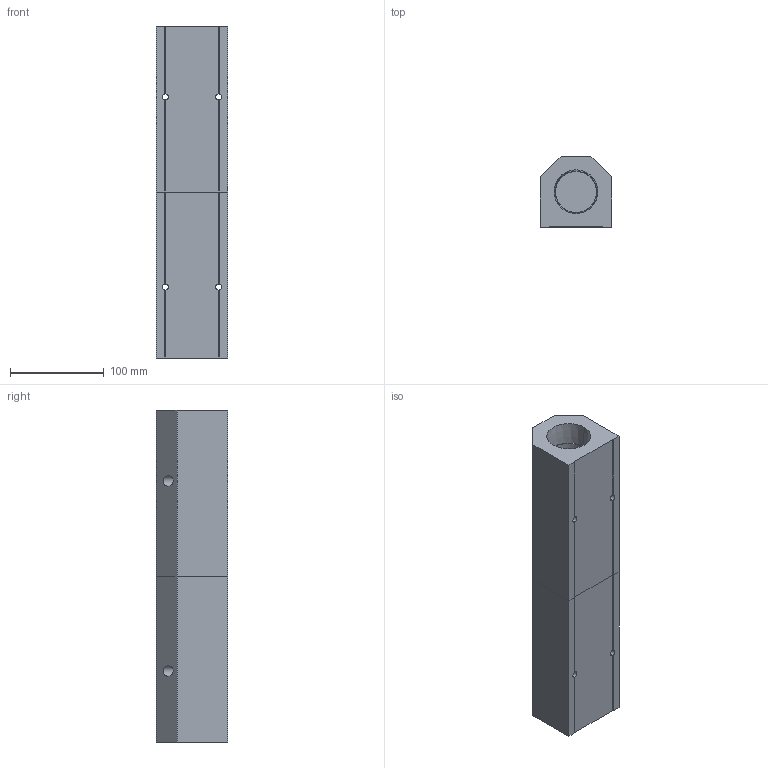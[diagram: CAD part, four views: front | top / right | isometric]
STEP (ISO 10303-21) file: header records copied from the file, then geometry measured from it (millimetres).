
FILE_DESCRIPTION (( 'STEP AP214' ), '1' );
FILE_NAME ('ALM6C-N6N24-355RB.step', '2022-02-07T09:16:08', ( '' ), ( '' ), 'SwSTEP 2.0', 'SolidWorks 2020', '' );
FILE_SCHEMA (( 'AUTOMOTIVE_DESIGN' ));
Length unit declared in the file: millimetre
Products named in the file (1): ALM6C-N6N24-355RB
Bounding box: 76.2 x 76.2 x 355 mm (x, y, z)
Volume: 1302486.2 mm3; surface area: 177180.2 mm2
Topology: 2 solids, 2 shells, 331 faces, 871 edges, 578 vertices
Faces by surface type: plane 216, bspline 79, cylinder 20, cone 16
Entity records: 18604 total; most frequent: CARTESIAN_POINT 7836, ORIENTED_EDGE 1742, DIRECTION 1243, EDGE_CURVE 871, VECTOR 633, LINE 633, VERTEX_POINT 578, EDGE_LOOP 385
